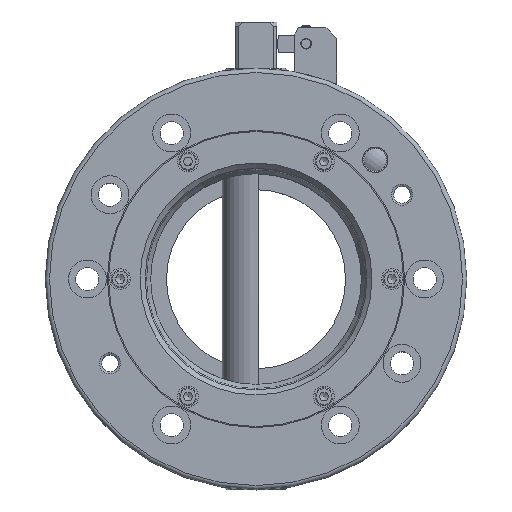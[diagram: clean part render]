
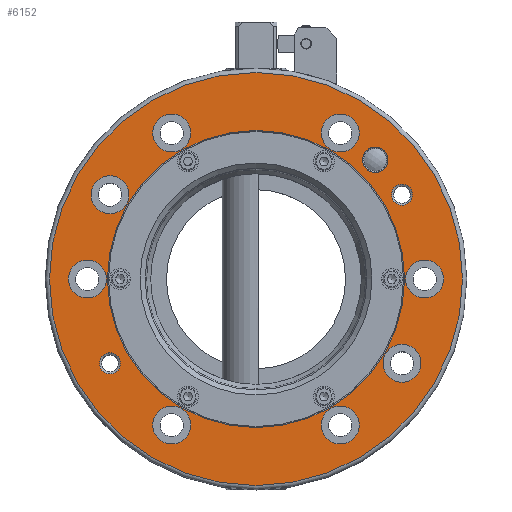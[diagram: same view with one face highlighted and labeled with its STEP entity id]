
A CAD part, top view. The second image highlights one B-rep face of the part: STEP entity #6152.
In plain terms, the highlighted planar face has unit normal (0, 0, 1).
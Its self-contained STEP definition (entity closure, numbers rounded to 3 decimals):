
#180=FACE_BOUND('',#913,.T.);
#181=FACE_BOUND('',#914,.T.);
#182=FACE_BOUND('',#915,.T.);
#183=FACE_BOUND('',#916,.T.);
#184=FACE_BOUND('',#917,.T.);
#185=FACE_BOUND('',#918,.T.);
#186=FACE_BOUND('',#919,.T.);
#187=FACE_BOUND('',#920,.T.);
#188=FACE_BOUND('',#921,.T.);
#189=FACE_BOUND('',#922,.T.);
#190=FACE_BOUND('',#923,.T.);
#191=FACE_BOUND('',#924,.T.);
#285=PLANE('',#6583);
#566=FACE_OUTER_BOUND('',#912,.T.);
#912=EDGE_LOOP('',(#4099));
#913=EDGE_LOOP('',(#4100,#4101));
#914=EDGE_LOOP('',(#4102,#4103));
#915=EDGE_LOOP('',(#4104,#4105));
#916=EDGE_LOOP('',(#4106,#4107));
#917=EDGE_LOOP('',(#4108,#4109));
#918=EDGE_LOOP('',(#4110,#4111));
#919=EDGE_LOOP('',(#4112,#4113));
#920=EDGE_LOOP('',(#4114,#4115));
#921=EDGE_LOOP('',(#4116));
#922=EDGE_LOOP('',(#4117,#4118));
#923=EDGE_LOOP('',(#4119,#4120));
#924=EDGE_LOOP('',(#4121,#4122));
#2025=CIRCLE('',#6509,9.);
#2026=CIRCLE('',#6510,9.);
#2031=CIRCLE('',#6518,9.);
#2032=CIRCLE('',#6519,9.);
#2037=CIRCLE('',#6527,9.);
#2038=CIRCLE('',#6528,9.);
#2043=CIRCLE('',#6536,9.);
#2044=CIRCLE('',#6537,9.);
#2049=CIRCLE('',#6545,9.);
#2050=CIRCLE('',#6546,9.);
#2055=CIRCLE('',#6554,9.);
#2056=CIRCLE('',#6555,9.);
#2061=CIRCLE('',#6563,9.);
#2062=CIRCLE('',#6564,9.);
#2067=CIRCLE('',#6572,9.);
#2068=CIRCLE('',#6573,9.);
#2072=CIRCLE('',#6579,98.);
#2075=CIRCLE('',#6584,70.5);
#2076=CIRCLE('',#6585,6.);
#2077=CIRCLE('',#6586,6.);
#2078=CIRCLE('',#6587,5.);
#2079=CIRCLE('',#6588,5.);
#2080=CIRCLE('',#6589,5.);
#2081=CIRCLE('',#6590,5.);
#2448=VERTEX_POINT('',#9307);
#2449=VERTEX_POINT('',#9308);
#2454=VERTEX_POINT('',#9324);
#2455=VERTEX_POINT('',#9325);
#2460=VERTEX_POINT('',#9341);
#2461=VERTEX_POINT('',#9342);
#2466=VERTEX_POINT('',#9358);
#2467=VERTEX_POINT('',#9359);
#2472=VERTEX_POINT('',#9375);
#2473=VERTEX_POINT('',#9376);
#2478=VERTEX_POINT('',#9392);
#2479=VERTEX_POINT('',#9393);
#2484=VERTEX_POINT('',#9409);
#2485=VERTEX_POINT('',#9410);
#2490=VERTEX_POINT('',#9426);
#2491=VERTEX_POINT('',#9427);
#2494=VERTEX_POINT('',#9438);
#2502=VERTEX_POINT('',#9591);
#2503=VERTEX_POINT('',#9593);
#2504=VERTEX_POINT('',#9594);
#2505=VERTEX_POINT('',#9597);
#2506=VERTEX_POINT('',#9598);
#2507=VERTEX_POINT('',#9601);
#2508=VERTEX_POINT('',#9602);
#3086=EDGE_CURVE('',#2448,#2449,#2025,.T.);
#3087=EDGE_CURVE('',#2449,#2448,#2026,.T.);
#3094=EDGE_CURVE('',#2454,#2455,#2031,.T.);
#3095=EDGE_CURVE('',#2455,#2454,#2032,.T.);
#3102=EDGE_CURVE('',#2460,#2461,#2037,.T.);
#3103=EDGE_CURVE('',#2461,#2460,#2038,.T.);
#3110=EDGE_CURVE('',#2466,#2467,#2043,.T.);
#3111=EDGE_CURVE('',#2467,#2466,#2044,.T.);
#3118=EDGE_CURVE('',#2472,#2473,#2049,.T.);
#3119=EDGE_CURVE('',#2473,#2472,#2050,.T.);
#3126=EDGE_CURVE('',#2478,#2479,#2055,.T.);
#3127=EDGE_CURVE('',#2479,#2478,#2056,.T.);
#3134=EDGE_CURVE('',#2484,#2485,#2061,.T.);
#3135=EDGE_CURVE('',#2485,#2484,#2062,.T.);
#3142=EDGE_CURVE('',#2490,#2491,#2067,.T.);
#3143=EDGE_CURVE('',#2491,#2490,#2068,.T.);
#3149=EDGE_CURVE('',#2494,#2494,#2072,.T.);
#3158=EDGE_CURVE('',#2502,#2502,#2075,.T.);
#3159=EDGE_CURVE('',#2503,#2504,#2076,.T.);
#3160=EDGE_CURVE('',#2504,#2503,#2077,.T.);
#3161=EDGE_CURVE('',#2505,#2506,#2078,.T.);
#3162=EDGE_CURVE('',#2506,#2505,#2079,.T.);
#3163=EDGE_CURVE('',#2507,#2508,#2080,.T.);
#3164=EDGE_CURVE('',#2508,#2507,#2081,.T.);
#4099=ORIENTED_EDGE('',*,*,#3149,.F.);
#4100=ORIENTED_EDGE('',*,*,#3086,.T.);
#4101=ORIENTED_EDGE('',*,*,#3087,.T.);
#4102=ORIENTED_EDGE('',*,*,#3094,.T.);
#4103=ORIENTED_EDGE('',*,*,#3095,.T.);
#4104=ORIENTED_EDGE('',*,*,#3102,.T.);
#4105=ORIENTED_EDGE('',*,*,#3103,.T.);
#4106=ORIENTED_EDGE('',*,*,#3110,.T.);
#4107=ORIENTED_EDGE('',*,*,#3111,.T.);
#4108=ORIENTED_EDGE('',*,*,#3118,.T.);
#4109=ORIENTED_EDGE('',*,*,#3119,.T.);
#4110=ORIENTED_EDGE('',*,*,#3126,.T.);
#4111=ORIENTED_EDGE('',*,*,#3127,.T.);
#4112=ORIENTED_EDGE('',*,*,#3134,.T.);
#4113=ORIENTED_EDGE('',*,*,#3135,.T.);
#4114=ORIENTED_EDGE('',*,*,#3142,.T.);
#4115=ORIENTED_EDGE('',*,*,#3143,.T.);
#4116=ORIENTED_EDGE('',*,*,#3158,.T.);
#4117=ORIENTED_EDGE('',*,*,#3159,.T.);
#4118=ORIENTED_EDGE('',*,*,#3160,.T.);
#4119=ORIENTED_EDGE('',*,*,#3161,.T.);
#4120=ORIENTED_EDGE('',*,*,#3162,.T.);
#4121=ORIENTED_EDGE('',*,*,#3163,.T.);
#4122=ORIENTED_EDGE('',*,*,#3164,.T.);
#6152=ADVANCED_FACE('',(#566,#180,#181,#182,#183,#184,#185,#186,#187,#188,
#189,#190,#191),#285,.F.);
#6509=AXIS2_PLACEMENT_3D('',#9309,#7288,#7289);
#6510=AXIS2_PLACEMENT_3D('',#9310,#7290,#7291);
#6518=AXIS2_PLACEMENT_3D('',#9326,#7308,#7309);
#6519=AXIS2_PLACEMENT_3D('',#9327,#7310,#7311);
#6527=AXIS2_PLACEMENT_3D('',#9343,#7328,#7329);
#6528=AXIS2_PLACEMENT_3D('',#9344,#7330,#7331);
#6536=AXIS2_PLACEMENT_3D('',#9360,#7348,#7349);
#6537=AXIS2_PLACEMENT_3D('',#9361,#7350,#7351);
#6545=AXIS2_PLACEMENT_3D('',#9377,#7368,#7369);
#6546=AXIS2_PLACEMENT_3D('',#9378,#7370,#7371);
#6554=AXIS2_PLACEMENT_3D('',#9394,#7388,#7389);
#6555=AXIS2_PLACEMENT_3D('',#9395,#7390,#7391);
#6563=AXIS2_PLACEMENT_3D('',#9411,#7408,#7409);
#6564=AXIS2_PLACEMENT_3D('',#9412,#7410,#7411);
#6572=AXIS2_PLACEMENT_3D('',#9428,#7428,#7429);
#6573=AXIS2_PLACEMENT_3D('',#9429,#7430,#7431);
#6579=AXIS2_PLACEMENT_3D('',#9440,#7444,#7445);
#6583=AXIS2_PLACEMENT_3D('',#9590,#7453,#7454);
#6584=AXIS2_PLACEMENT_3D('',#9592,#7455,#7456);
#6585=AXIS2_PLACEMENT_3D('',#9595,#7457,#7458);
#6586=AXIS2_PLACEMENT_3D('',#9596,#7459,#7460);
#6587=AXIS2_PLACEMENT_3D('',#9599,#7461,#7462);
#6588=AXIS2_PLACEMENT_3D('',#9600,#7463,#7464);
#6589=AXIS2_PLACEMENT_3D('',#9603,#7465,#7466);
#6590=AXIS2_PLACEMENT_3D('',#9604,#7467,#7468);
#7288=DIRECTION('center_axis',(0.,0.,-1.));
#7289=DIRECTION('ref_axis',(1.,0.,0.));
#7290=DIRECTION('center_axis',(0.,0.,-1.));
#7291=DIRECTION('ref_axis',(1.,0.,0.));
#7308=DIRECTION('center_axis',(0.,0.,-1.));
#7309=DIRECTION('ref_axis',(1.,0.,0.));
#7310=DIRECTION('center_axis',(0.,0.,-1.));
#7311=DIRECTION('ref_axis',(1.,0.,0.));
#7328=DIRECTION('center_axis',(0.,0.,-1.));
#7329=DIRECTION('ref_axis',(1.,0.,0.));
#7330=DIRECTION('center_axis',(0.,0.,-1.));
#7331=DIRECTION('ref_axis',(1.,0.,0.));
#7348=DIRECTION('center_axis',(0.,0.,-1.));
#7349=DIRECTION('ref_axis',(1.,0.,0.));
#7350=DIRECTION('center_axis',(0.,0.,-1.));
#7351=DIRECTION('ref_axis',(1.,0.,0.));
#7368=DIRECTION('center_axis',(0.,0.,-1.));
#7369=DIRECTION('ref_axis',(1.,0.,0.));
#7370=DIRECTION('center_axis',(0.,0.,-1.));
#7371=DIRECTION('ref_axis',(1.,0.,0.));
#7388=DIRECTION('center_axis',(0.,0.,-1.));
#7389=DIRECTION('ref_axis',(1.,0.,0.));
#7390=DIRECTION('center_axis',(0.,0.,-1.));
#7391=DIRECTION('ref_axis',(1.,0.,0.));
#7408=DIRECTION('center_axis',(0.,0.,-1.));
#7409=DIRECTION('ref_axis',(1.,0.,0.));
#7410=DIRECTION('center_axis',(0.,0.,-1.));
#7411=DIRECTION('ref_axis',(1.,0.,0.));
#7428=DIRECTION('center_axis',(0.,0.,-1.));
#7429=DIRECTION('ref_axis',(1.,0.,0.));
#7430=DIRECTION('center_axis',(0.,0.,-1.));
#7431=DIRECTION('ref_axis',(1.,0.,0.));
#7444=DIRECTION('center_axis',(0.,0.,-1.));
#7445=DIRECTION('ref_axis',(-1.,0.,0.));
#7453=DIRECTION('center_axis',(0.,0.,-1.));
#7454=DIRECTION('ref_axis',(-1.,0.,0.));
#7455=DIRECTION('center_axis',(0.,0.,-1.));
#7456=DIRECTION('ref_axis',(-1.,0.,0.));
#7457=DIRECTION('center_axis',(0.,0.,-1.));
#7458=DIRECTION('ref_axis',(1.,0.,0.));
#7459=DIRECTION('center_axis',(0.,0.,-1.));
#7460=DIRECTION('ref_axis',(1.,0.,0.));
#7461=DIRECTION('center_axis',(0.,0.,-1.));
#7462=DIRECTION('ref_axis',(1.,0.,0.));
#7463=DIRECTION('center_axis',(0.,0.,-1.));
#7464=DIRECTION('ref_axis',(1.,0.,0.));
#7465=DIRECTION('center_axis',(0.,0.,-1.));
#7466=DIRECTION('ref_axis',(1.,0.,0.));
#7467=DIRECTION('center_axis',(0.,0.,-1.));
#7468=DIRECTION('ref_axis',(1.,0.,0.));
#9307=CARTESIAN_POINT('',(-60.282,40.,32.5));
#9308=CARTESIAN_POINT('',(-78.282,40.,32.5));
#9309=CARTESIAN_POINT('Origin',(-69.282,40.,32.5));
#9310=CARTESIAN_POINT('Origin',(-69.282,40.,32.5));
#9324=CARTESIAN_POINT('',(49.,69.282,32.5));
#9325=CARTESIAN_POINT('',(31.,69.282,32.5));
#9326=CARTESIAN_POINT('Origin',(40.,69.282,32.5));
#9327=CARTESIAN_POINT('Origin',(40.,69.282,32.5));
#9341=CARTESIAN_POINT('',(78.282,-40.,32.5));
#9342=CARTESIAN_POINT('',(60.282,-40.,32.5));
#9343=CARTESIAN_POINT('Origin',(69.282,-40.,32.5));
#9344=CARTESIAN_POINT('Origin',(69.282,-40.,32.5));
#9358=CARTESIAN_POINT('',(-31.,-69.282,32.5));
#9359=CARTESIAN_POINT('',(-49.,-69.282,32.5));
#9360=CARTESIAN_POINT('Origin',(-40.,-69.282,32.5));
#9361=CARTESIAN_POINT('Origin',(-40.,-69.282,32.5));
#9375=CARTESIAN_POINT('',(49.,-69.282,32.5));
#9376=CARTESIAN_POINT('',(31.,-69.282,32.5));
#9377=CARTESIAN_POINT('Origin',(40.,-69.282,32.5));
#9378=CARTESIAN_POINT('Origin',(40.,-69.282,32.5));
#9392=CARTESIAN_POINT('',(89.,0.,32.5));
#9393=CARTESIAN_POINT('',(71.,0.,32.5));
#9394=CARTESIAN_POINT('Origin',(80.,0.,32.5));
#9395=CARTESIAN_POINT('Origin',(80.,0.,32.5));
#9409=CARTESIAN_POINT('',(-31.,69.282,32.5));
#9410=CARTESIAN_POINT('',(-49.,69.282,32.5));
#9411=CARTESIAN_POINT('Origin',(-40.,69.282,32.5));
#9412=CARTESIAN_POINT('Origin',(-40.,69.282,32.5));
#9426=CARTESIAN_POINT('',(-71.,0.,32.5));
#9427=CARTESIAN_POINT('',(-89.,0.,32.5));
#9428=CARTESIAN_POINT('Origin',(-80.,0.,32.5));
#9429=CARTESIAN_POINT('Origin',(-80.,0.,32.5));
#9438=CARTESIAN_POINT('',(98.,0.,32.5));
#9440=CARTESIAN_POINT('Origin',(0.,0.,32.5));
#9590=CARTESIAN_POINT('Origin',(0.,0.,32.5));
#9591=CARTESIAN_POINT('',(70.5,0.,32.5));
#9592=CARTESIAN_POINT('Origin',(0.,0.,32.5));
#9593=CARTESIAN_POINT('',(62.569,56.569,32.5));
#9594=CARTESIAN_POINT('',(50.569,56.569,32.5));
#9595=CARTESIAN_POINT('Origin',(56.569,56.569,32.5));
#9596=CARTESIAN_POINT('Origin',(56.569,56.569,32.5));
#9597=CARTESIAN_POINT('',(-64.282,-40.,32.5));
#9598=CARTESIAN_POINT('',(-74.282,-40.,32.5));
#9599=CARTESIAN_POINT('Origin',(-69.282,-40.,32.5));
#9600=CARTESIAN_POINT('Origin',(-69.282,-40.,32.5));
#9601=CARTESIAN_POINT('',(74.282,40.,32.5));
#9602=CARTESIAN_POINT('',(64.282,40.,32.5));
#9603=CARTESIAN_POINT('Origin',(69.282,40.,32.5));
#9604=CARTESIAN_POINT('Origin',(69.282,40.,32.5));
